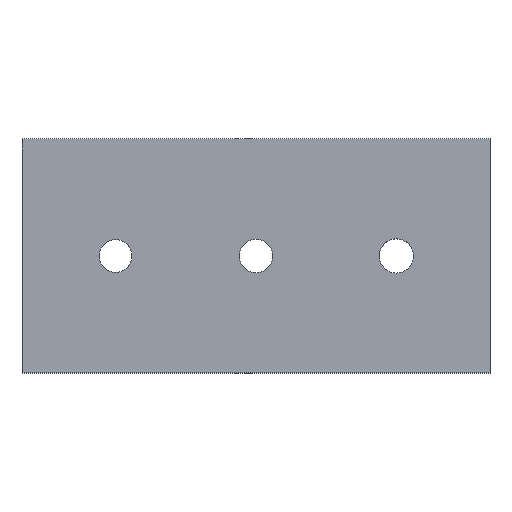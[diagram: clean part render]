
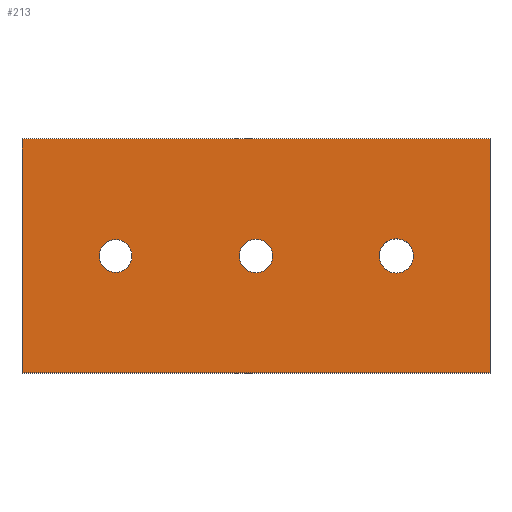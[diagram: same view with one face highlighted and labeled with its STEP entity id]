
A CAD part, top view. The second image highlights one B-rep face of the part: STEP entity #213.
In plain terms, the highlighted planar face has unit normal (0, 0, 1).
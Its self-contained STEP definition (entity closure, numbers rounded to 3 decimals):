
#24 = VERTEX_POINT('',#25);
#25 = CARTESIAN_POINT('',(0.,0.,6.));
#32 = PLANE('',#33);
#33 = AXIS2_PLACEMENT_3D('',#34,#35,#36);
#34 = CARTESIAN_POINT('',(0.,0.,0.));
#35 = DIRECTION('',(1.,0.,-0.));
#36 = DIRECTION('',(0.,0.,1.));
#44 = PLANE('',#45);
#45 = AXIS2_PLACEMENT_3D('',#46,#47,#48);
#46 = CARTESIAN_POINT('',(0.,0.,0.));
#47 = DIRECTION('',(-0.,1.,0.));
#48 = DIRECTION('',(0.,0.,1.));
#85 = VERTEX_POINT('',#86);
#86 = CARTESIAN_POINT('',(0.,30.,6.));
#100 = PLANE('',#101);
#101 = AXIS2_PLACEMENT_3D('',#102,#103,#104);
#102 = CARTESIAN_POINT('',(0.,30.,0.));
#103 = DIRECTION('',(-0.,1.,0.));
#104 = DIRECTION('',(0.,0.,1.));
#112 = EDGE_CURVE('',#24,#85,#113,.T.);
#113 = SURFACE_CURVE('',#114,(#118,#125),.PCURVE_S1.);
#114 = LINE('',#115,#116);
#115 = CARTESIAN_POINT('',(0.,0.,6.));
#116 = VECTOR('',#117,1.);
#117 = DIRECTION('',(-0.,1.,0.));
#118 = PCURVE('',#32,#119);
#119 = DEFINITIONAL_REPRESENTATION('',(#120),#124);
#120 = LINE('',#121,#122);
#121 = CARTESIAN_POINT('',(6.,0.));
#122 = VECTOR('',#123,1.);
#123 = DIRECTION('',(0.,-1.));
#124 = ( GEOMETRIC_REPRESENTATION_CONTEXT(2) 
PARAMETRIC_REPRESENTATION_CONTEXT() REPRESENTATION_CONTEXT('2D SPACE',''
  ) );
#125 = PCURVE('',#126,#131);
#126 = PLANE('',#127);
#127 = AXIS2_PLACEMENT_3D('',#128,#129,#130);
#128 = CARTESIAN_POINT('',(0.,0.,6.));
#129 = DIRECTION('',(0.,0.,1.));
#130 = DIRECTION('',(1.,0.,-0.));
#131 = DEFINITIONAL_REPRESENTATION('',(#132),#136);
#132 = LINE('',#133,#134);
#133 = CARTESIAN_POINT('',(0.,0.));
#134 = VECTOR('',#135,1.);
#135 = DIRECTION('',(0.,1.));
#136 = ( GEOMETRIC_REPRESENTATION_CONTEXT(2) 
PARAMETRIC_REPRESENTATION_CONTEXT() REPRESENTATION_CONTEXT('2D SPACE',''
  ) );
#165 = EDGE_CURVE('',#24,#166,#168,.T.);
#166 = VERTEX_POINT('',#167);
#167 = CARTESIAN_POINT('',(60.,0.,6.));
#168 = SURFACE_CURVE('',#169,(#173,#180),.PCURVE_S1.);
#169 = LINE('',#170,#171);
#170 = CARTESIAN_POINT('',(0.,0.,6.));
#171 = VECTOR('',#172,1.);
#172 = DIRECTION('',(1.,0.,-0.));
#173 = PCURVE('',#44,#174);
#174 = DEFINITIONAL_REPRESENTATION('',(#175),#179);
#175 = LINE('',#176,#177);
#176 = CARTESIAN_POINT('',(6.,0.));
#177 = VECTOR('',#178,1.);
#178 = DIRECTION('',(0.,1.));
#179 = ( GEOMETRIC_REPRESENTATION_CONTEXT(2) 
PARAMETRIC_REPRESENTATION_CONTEXT() REPRESENTATION_CONTEXT('2D SPACE',''
  ) );
#180 = PCURVE('',#126,#181);
#181 = DEFINITIONAL_REPRESENTATION('',(#182),#186);
#182 = LINE('',#183,#184);
#183 = CARTESIAN_POINT('',(0.,0.));
#184 = VECTOR('',#185,1.);
#185 = DIRECTION('',(1.,0.));
#186 = ( GEOMETRIC_REPRESENTATION_CONTEXT(2) 
PARAMETRIC_REPRESENTATION_CONTEXT() REPRESENTATION_CONTEXT('2D SPACE',''
  ) );
#202 = PLANE('',#203);
#203 = AXIS2_PLACEMENT_3D('',#204,#205,#206);
#204 = CARTESIAN_POINT('',(60.,0.,0.));
#205 = DIRECTION('',(1.,0.,-0.));
#206 = DIRECTION('',(0.,0.,1.));
#213 = ADVANCED_FACE('',(#214,#262,#293,#324),#126,.T.);
#214 = FACE_BOUND('',#215,.T.);
#215 = EDGE_LOOP('',(#216,#217,#218,#241));
#216 = ORIENTED_EDGE('',*,*,#112,.F.);
#217 = ORIENTED_EDGE('',*,*,#165,.T.);
#218 = ORIENTED_EDGE('',*,*,#219,.T.);
#219 = EDGE_CURVE('',#166,#220,#222,.T.);
#220 = VERTEX_POINT('',#221);
#221 = CARTESIAN_POINT('',(60.,30.,6.));
#222 = SURFACE_CURVE('',#223,(#227,#234),.PCURVE_S1.);
#223 = LINE('',#224,#225);
#224 = CARTESIAN_POINT('',(60.,0.,6.));
#225 = VECTOR('',#226,1.);
#226 = DIRECTION('',(-0.,1.,0.));
#227 = PCURVE('',#126,#228);
#228 = DEFINITIONAL_REPRESENTATION('',(#229),#233);
#229 = LINE('',#230,#231);
#230 = CARTESIAN_POINT('',(60.,0.));
#231 = VECTOR('',#232,1.);
#232 = DIRECTION('',(0.,1.));
#233 = ( GEOMETRIC_REPRESENTATION_CONTEXT(2) 
PARAMETRIC_REPRESENTATION_CONTEXT() REPRESENTATION_CONTEXT('2D SPACE',''
  ) );
#234 = PCURVE('',#202,#235);
#235 = DEFINITIONAL_REPRESENTATION('',(#236),#240);
#236 = LINE('',#237,#238);
#237 = CARTESIAN_POINT('',(6.,0.));
#238 = VECTOR('',#239,1.);
#239 = DIRECTION('',(0.,-1.));
#240 = ( GEOMETRIC_REPRESENTATION_CONTEXT(2) 
PARAMETRIC_REPRESENTATION_CONTEXT() REPRESENTATION_CONTEXT('2D SPACE',''
  ) );
#241 = ORIENTED_EDGE('',*,*,#242,.F.);
#242 = EDGE_CURVE('',#85,#220,#243,.T.);
#243 = SURFACE_CURVE('',#244,(#248,#255),.PCURVE_S1.);
#244 = LINE('',#245,#246);
#245 = CARTESIAN_POINT('',(0.,30.,6.));
#246 = VECTOR('',#247,1.);
#247 = DIRECTION('',(1.,0.,-0.));
#248 = PCURVE('',#126,#249);
#249 = DEFINITIONAL_REPRESENTATION('',(#250),#254);
#250 = LINE('',#251,#252);
#251 = CARTESIAN_POINT('',(0.,30.));
#252 = VECTOR('',#253,1.);
#253 = DIRECTION('',(1.,0.));
#254 = ( GEOMETRIC_REPRESENTATION_CONTEXT(2) 
PARAMETRIC_REPRESENTATION_CONTEXT() REPRESENTATION_CONTEXT('2D SPACE',''
  ) );
#255 = PCURVE('',#100,#256);
#256 = DEFINITIONAL_REPRESENTATION('',(#257),#261);
#257 = LINE('',#258,#259);
#258 = CARTESIAN_POINT('',(6.,0.));
#259 = VECTOR('',#260,1.);
#260 = DIRECTION('',(0.,1.));
#261 = ( GEOMETRIC_REPRESENTATION_CONTEXT(2) 
PARAMETRIC_REPRESENTATION_CONTEXT() REPRESENTATION_CONTEXT('2D SPACE',''
  ) );
#262 = FACE_BOUND('',#263,.T.);
#263 = EDGE_LOOP('',(#264));
#264 = ORIENTED_EDGE('',*,*,#265,.F.);
#265 = EDGE_CURVE('',#266,#266,#268,.T.);
#266 = VERTEX_POINT('',#267);
#267 = CARTESIAN_POINT('',(14.1,15.,6.));
#268 = SURFACE_CURVE('',#269,(#274,#281),.PCURVE_S1.);
#269 = CIRCLE('',#270,2.1);
#270 = AXIS2_PLACEMENT_3D('',#271,#272,#273);
#271 = CARTESIAN_POINT('',(12.,15.,6.));
#272 = DIRECTION('',(0.,0.,1.));
#273 = DIRECTION('',(1.,0.,-0.));
#274 = PCURVE('',#126,#275);
#275 = DEFINITIONAL_REPRESENTATION('',(#276),#280);
#276 = CIRCLE('',#277,2.1);
#277 = AXIS2_PLACEMENT_2D('',#278,#279);
#278 = CARTESIAN_POINT('',(12.,15.));
#279 = DIRECTION('',(1.,0.));
#280 = ( GEOMETRIC_REPRESENTATION_CONTEXT(2) 
PARAMETRIC_REPRESENTATION_CONTEXT() REPRESENTATION_CONTEXT('2D SPACE',''
  ) );
#281 = PCURVE('',#282,#287);
#282 = CYLINDRICAL_SURFACE('',#283,2.1);
#283 = AXIS2_PLACEMENT_3D('',#284,#285,#286);
#284 = CARTESIAN_POINT('',(12.,15.,-1.));
#285 = DIRECTION('',(0.,0.,1.));
#286 = DIRECTION('',(1.,0.,-0.));
#287 = DEFINITIONAL_REPRESENTATION('',(#288),#292);
#288 = LINE('',#289,#290);
#289 = CARTESIAN_POINT('',(0.,7.));
#290 = VECTOR('',#291,1.);
#291 = DIRECTION('',(1.,0.));
#292 = ( GEOMETRIC_REPRESENTATION_CONTEXT(2) 
PARAMETRIC_REPRESENTATION_CONTEXT() REPRESENTATION_CONTEXT('2D SPACE',''
  ) );
#293 = FACE_BOUND('',#294,.T.);
#294 = EDGE_LOOP('',(#295));
#295 = ORIENTED_EDGE('',*,*,#296,.F.);
#296 = EDGE_CURVE('',#297,#297,#299,.T.);
#297 = VERTEX_POINT('',#298);
#298 = CARTESIAN_POINT('',(32.15,15.,6.));
#299 = SURFACE_CURVE('',#300,(#305,#312),.PCURVE_S1.);
#300 = CIRCLE('',#301,2.15);
#301 = AXIS2_PLACEMENT_3D('',#302,#303,#304);
#302 = CARTESIAN_POINT('',(30.,15.,6.));
#303 = DIRECTION('',(0.,0.,1.));
#304 = DIRECTION('',(1.,0.,-0.));
#305 = PCURVE('',#126,#306);
#306 = DEFINITIONAL_REPRESENTATION('',(#307),#311);
#307 = CIRCLE('',#308,2.15);
#308 = AXIS2_PLACEMENT_2D('',#309,#310);
#309 = CARTESIAN_POINT('',(30.,15.));
#310 = DIRECTION('',(1.,0.));
#311 = ( GEOMETRIC_REPRESENTATION_CONTEXT(2) 
PARAMETRIC_REPRESENTATION_CONTEXT() REPRESENTATION_CONTEXT('2D SPACE',''
  ) );
#312 = PCURVE('',#313,#318);
#313 = CYLINDRICAL_SURFACE('',#314,2.15);
#314 = AXIS2_PLACEMENT_3D('',#315,#316,#317);
#315 = CARTESIAN_POINT('',(30.,15.,-1.));
#316 = DIRECTION('',(0.,0.,1.));
#317 = DIRECTION('',(1.,0.,-0.));
#318 = DEFINITIONAL_REPRESENTATION('',(#319),#323);
#319 = LINE('',#320,#321);
#320 = CARTESIAN_POINT('',(0.,7.));
#321 = VECTOR('',#322,1.);
#322 = DIRECTION('',(1.,0.));
#323 = ( GEOMETRIC_REPRESENTATION_CONTEXT(2) 
PARAMETRIC_REPRESENTATION_CONTEXT() REPRESENTATION_CONTEXT('2D SPACE',''
  ) );
#324 = FACE_BOUND('',#325,.T.);
#325 = EDGE_LOOP('',(#326));
#326 = ORIENTED_EDGE('',*,*,#327,.F.);
#327 = EDGE_CURVE('',#328,#328,#330,.T.);
#328 = VERTEX_POINT('',#329);
#329 = CARTESIAN_POINT('',(50.2,15.,6.));
#330 = SURFACE_CURVE('',#331,(#336,#343),.PCURVE_S1.);
#331 = CIRCLE('',#332,2.2);
#332 = AXIS2_PLACEMENT_3D('',#333,#334,#335);
#333 = CARTESIAN_POINT('',(48.,15.,6.));
#334 = DIRECTION('',(0.,0.,1.));
#335 = DIRECTION('',(1.,0.,-0.));
#336 = PCURVE('',#126,#337);
#337 = DEFINITIONAL_REPRESENTATION('',(#338),#342);
#338 = CIRCLE('',#339,2.2);
#339 = AXIS2_PLACEMENT_2D('',#340,#341);
#340 = CARTESIAN_POINT('',(48.,15.));
#341 = DIRECTION('',(1.,0.));
#342 = ( GEOMETRIC_REPRESENTATION_CONTEXT(2) 
PARAMETRIC_REPRESENTATION_CONTEXT() REPRESENTATION_CONTEXT('2D SPACE',''
  ) );
#343 = PCURVE('',#344,#349);
#344 = CYLINDRICAL_SURFACE('',#345,2.2);
#345 = AXIS2_PLACEMENT_3D('',#346,#347,#348);
#346 = CARTESIAN_POINT('',(48.,15.,-1.));
#347 = DIRECTION('',(0.,0.,1.));
#348 = DIRECTION('',(1.,0.,-0.));
#349 = DEFINITIONAL_REPRESENTATION('',(#350),#354);
#350 = LINE('',#351,#352);
#351 = CARTESIAN_POINT('',(0.,7.));
#352 = VECTOR('',#353,1.);
#353 = DIRECTION('',(1.,0.));
#354 = ( GEOMETRIC_REPRESENTATION_CONTEXT(2) 
PARAMETRIC_REPRESENTATION_CONTEXT() REPRESENTATION_CONTEXT('2D SPACE',''
  ) );
